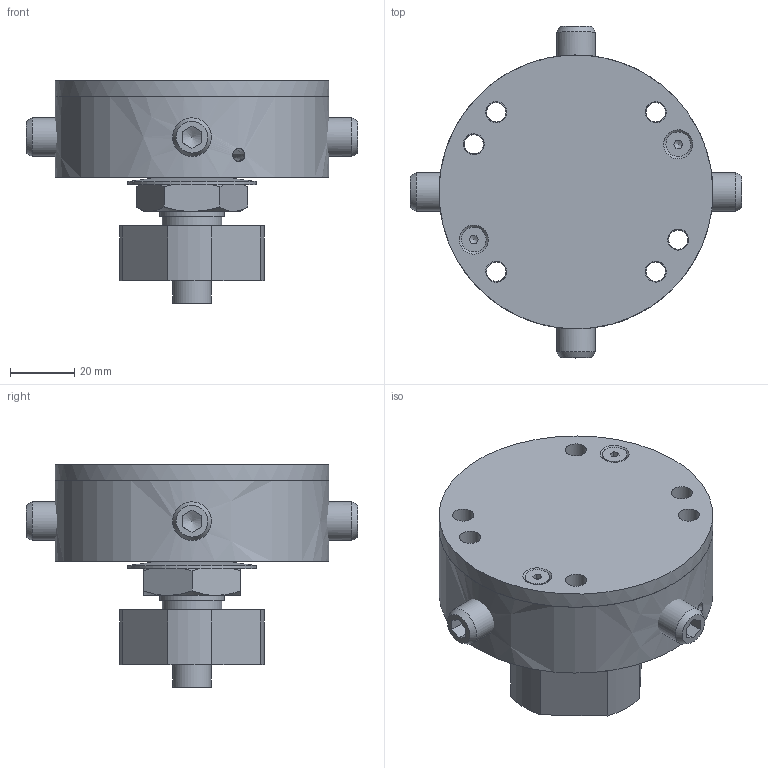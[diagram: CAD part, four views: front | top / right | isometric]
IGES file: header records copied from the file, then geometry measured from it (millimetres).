
Global section: file name: 330.00; native system: Autodesk Inventor 2016; preprocessor: unknown; author: AP; date: 20170321.161806; units: millimetre
Bounding box: 103 x 103 x 69 mm (x, y, z)
Volume: 184864.2 mm3; surface area: 66010.6 mm2
Topology: 13 solids, 13 shells, 193 faces, 509 edges, 347 vertices
Faces by surface type: bspline 193
